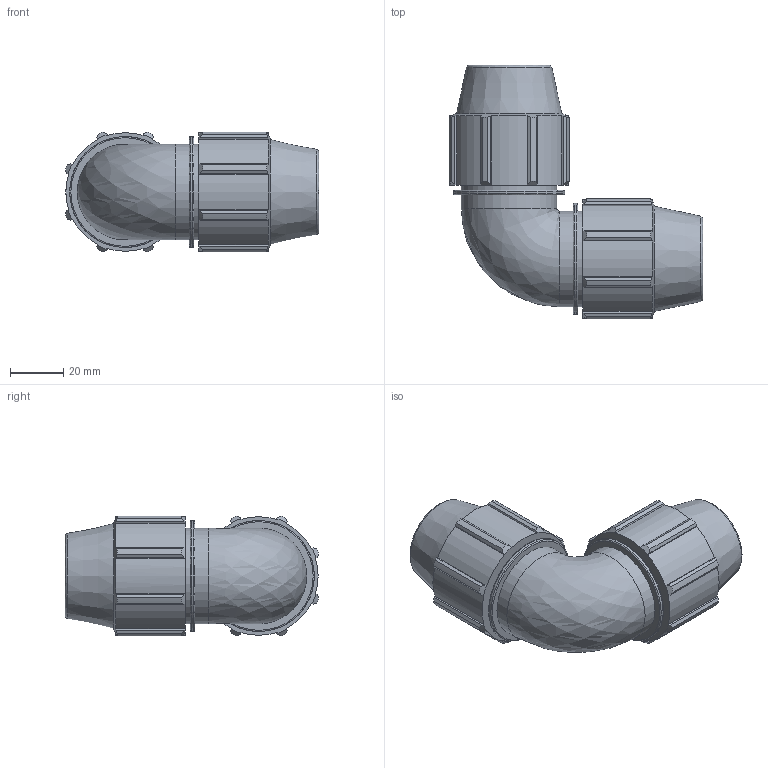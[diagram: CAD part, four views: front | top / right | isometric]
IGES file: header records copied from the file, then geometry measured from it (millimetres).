
Global section: file name: 0705M0005.ipt; native system: Autodesk Inventor 2019; preprocessor: unknown; author: KIM; date: 20210826.124604; units: inch
Bounding box: 95.48 x 95.48 x 45.17 mm (x, y, z)
Volume: 125336 mm3; surface area: 31320.4 mm2
Topology: 1 solids, 1 shells, 148 faces, 421 edges, 285 vertices
Faces by surface type: plane 76, cylinder 38, cone 20, revolution 14
Full cylindrical faces by diameter (mm): 36.005 x4, 41.765 x2
